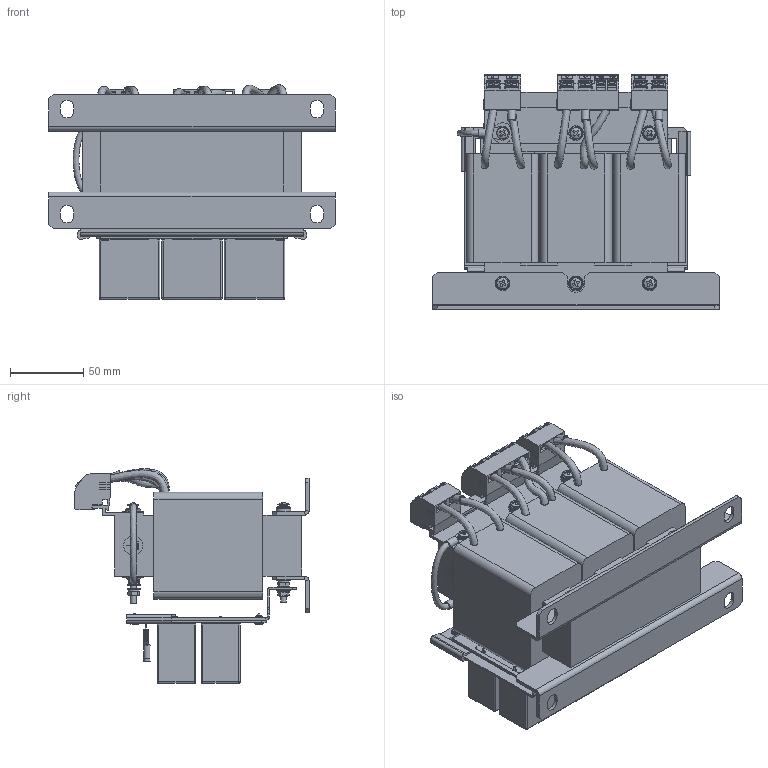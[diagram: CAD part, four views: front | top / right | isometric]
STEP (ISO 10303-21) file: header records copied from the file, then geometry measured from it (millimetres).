
FILE_DESCRIPTION(/* description */ (''),/* implementation_level */ '2;1');
FILE_NAME(/* name */ 'C:\Users\Erika.Jenzer\OneDrive - Schaffner EMV AG\BELLA\STEP FILES BELLA\FN\FN5420-13-89-E0XXT.stp',/* time_stamp */ '2021-07-07T17:03:33+02:00',/* author */ ('erika.jenzer'),/* organization */ (''),/* preprocessor_version */ 'ST-DEVELOPER v18.1',/* originating_system */ 'Autodesk Inventor 2020',/* authorisation */ '');
FILE_SCHEMA (('AUTOMOTIVE_DESIGN { 1 0 10303 214 3 1 1 }'));
Products named in the file (1): FN5420-13-89-E0XXT
Bounding box: 195 x 159.45 x 146.11 mm (x, y, z)
Volume: 1454459.2 mm3; surface area: 262910.2 mm2
Topology: 1 solids, 51 shells, 3578 faces, 9674 edges, 6337 vertices
Faces by surface type: plane 2491, cylinder 827, bspline 102, cone 76, sphere 62, torus 20
Full cylindrical faces by diameter (mm): 0.008 x2, 1 x36, 1.2 x12, 1.8 x3, 2 x7, 2.7 x3, 3 x2, 3.2 x4, 3.3 x4, 3.4 x6, 3.5 x7, 3.6 x3, 4 x27, 4.1 x7, 4.3 x12, 4.5 x6, 5.2 x9, 5.3 x1, 5.4 x3, 5.5 x6, 5.6 x2, 5.7 x2, 6.5 x10, 6.6 x3, 8 x2, 9 x14, 10 x5, 13 x1, 14 x2
Entity records: 121429 total; most frequent: CARTESIAN_POINT 27117, ORIENTED_EDGE 19312, DIRECTION 18883, EDGE_CURVE 9656, LINE 6567, VECTOR 6567, VERTEX_POINT 6337, AXIS2_PLACEMENT_3D 6158
